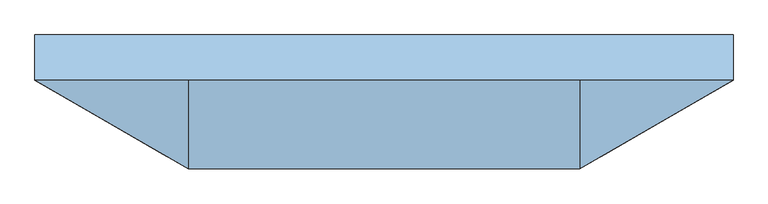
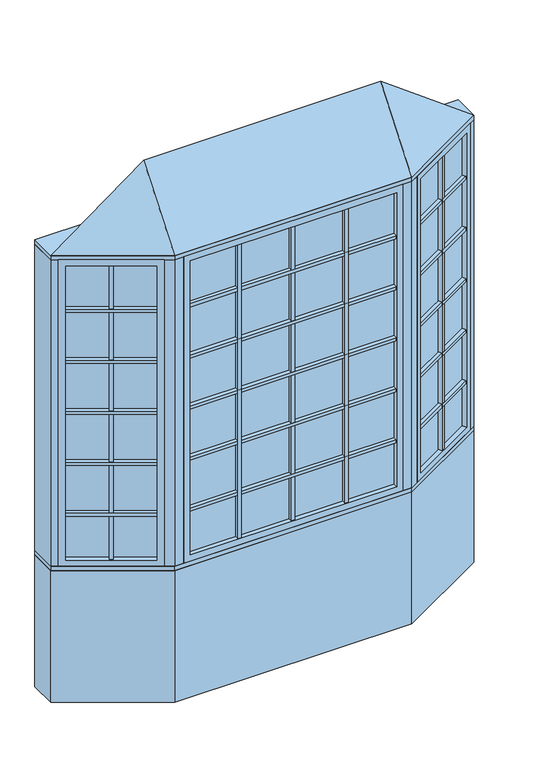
"""IFC4 building model written with IfcOpenShell, lengths in millimetres: window geometry, Pollard_Windows_Tudor Casement Bows and Bays : AML-BAY 30 AFR0618-12-500_GC."""

from ifc_helpers import new_model, si_unit, frame, origin, origin_with_axes, place, context, project, spatial, polyline, outline, extrude, faceted_brep, source, transform, mapped, element, save


def window_cc05f0d5(model_context):
    return source(origin(), model_context, "Body", "SolidModel", [
        extrude(outline(polyline([(732.2305346, -327.3537343), (721.2305346, -308.3011754), (1102.1135794, -88.3982469), (1113.1135794, -107.4508058), (732.2305346, -327.3537343)])), frame((0.0, 0.0, 1690.998), z_axis=(0.0, 0.0, 1.0), x_axis=(1.0, 0.0, 0.0)), (0.0, 0.0, 1.0), 18.0),
        extrude(outline(polyline([(718.6905346, -303.9017664), (707.6905346, -284.8492075), (1088.5735794, -64.946279), (1099.5735794, -83.9988379), (718.6905346, -303.9017664)])), frame((0.0, 0.0, 1690.998), z_axis=(0.0, 0.0, 1.0), x_axis=(1.0, 0.0, 0.0)), (0.0, 0.0, 1.0), 18.0),
        extrude(outline(polyline([(732.2305346, -327.3537343), (721.2305346, -308.3011754), (1102.1135794, -88.3982469), (1113.1135794, -107.4508058), (732.2305346, -327.3537343)])), frame((0.0, 0.0, 1090.998), z_axis=(0.0, 0.0, 1.0), x_axis=(1.0, 0.0, 0.0)), (0.0, 0.0, 1.0), 18.0),
        extrude(outline(polyline([(718.6905346, -303.9017664), (707.6905346, -284.8492075), (1088.5735794, -64.946279), (1099.5735794, -83.9988379), (718.6905346, -303.9017664)])), frame((0.0, 0.0, 1090.998), z_axis=(0.0, 0.0, 1.0), x_axis=(1.0, 0.0, 0.0)), (0.0, 0.0, 1.0), 18.0),
        extrude(outline(polyline([(732.2305346, -327.3537343), (721.2305346, -308.3011754), (1102.1135794, -88.3982469), (1113.1135794, -107.4508058), (732.2305346, -327.3537343)])), frame((0.0, 0.0, 1390.998), z_axis=(0.0, 0.0, 1.0), x_axis=(1.0, 0.0, 0.0)), (0.0, 0.0, 1.0), 18.0),
        extrude(outline(polyline([(718.6905346, -303.9017664), (707.6905346, -284.8492075), (1088.5735794, -64.946279), (1099.5735794, -83.9988379), (718.6905346, -303.9017664)])), frame((0.0, 0.0, 1390.998), z_axis=(0.0, 0.0, 1.0), x_axis=(1.0, 0.0, 0.0)), (0.0, 0.0, 1.0), 18.0),
        extrude(outline(polyline([(732.2305346, -327.3537343), (721.2305346, -308.3011754), (1102.1135794, -88.3982469), (1113.1135794, -107.4508058), (732.2305346, -327.3537343)])), frame((0.0, 0.0, 1990.998), z_axis=(0.0, 0.0, 1.0), x_axis=(1.0, 0.0, 0.0)), (0.0, 0.0, 1.0), 18.0),
        extrude(outline(polyline([(718.6905346, -303.9017664), (707.6905346, -284.8492075), (1088.5735794, -64.946279), (1099.5735794, -83.9988379), (718.6905346, -303.9017664)])), frame((0.0, 0.0, 1990.998), z_axis=(0.0, 0.0, 1.0), x_axis=(1.0, 0.0, 0.0)), (0.0, 0.0, 1.0), 18.0),
        extrude(outline(polyline([(732.2305346, -327.3537343), (721.2305346, -308.3011754), (1102.1135794, -88.3982469), (1113.1135794, -107.4508058), (732.2305346, -327.3537343)])), frame((0.0, 0.0, 2290.998), z_axis=(0.0, 0.0, 1.0), x_axis=(1.0, 0.0, 0.0)), (0.0, 0.0, 1.0), 18.0),
        extrude(outline(polyline([(718.6905346, -303.9017664), (707.6905346, -284.8492075), (1088.5735794, -64.946279), (1099.5735794, -83.9988379), (718.6905346, -303.9017664)])), frame((0.0, 0.0, 2290.998), z_axis=(0.0, 0.0, 1.0), x_axis=(1.0, 0.0, 0.0)), (0.0, 0.0, 1.0), 18.0),
        extrude(outline(polyline([(919.4662856, -193.8497112), (930.4662856, -212.9022701), (914.8778284, -221.9022701), (903.8778284, -202.8497112), (919.4662856, -193.8497112)])), frame((0.0, 0.0, 835.8628), z_axis=(0.0, 0.0, 1.0), x_axis=(1.0, 0.0, 0.0)), (0.0, 0.0, 1.0), 1728.2704),
        extrude(outline(polyline([(916.9262856, -189.4503021), (901.3378284, -198.4503021), (890.3378284, -179.3977432), (905.9262856, -170.3977432), (916.9262856, -189.4503021)])), frame((0.0, 0.0, 835.8628), z_axis=(0.0, 0.0, 1.0), x_axis=(1.0, 0.0, 0.0)), (0.0, 0.0, 1.0), 1728.2704),
        extrude(outline(polyline([(1113.112102, -82.0482469), (710.2320119, -314.6511754), (707.6920119, -310.2517664), (1110.572102, -77.6488379), (1113.112102, -82.0482469)])), frame((0.0, 0.0, 823.1628), z_axis=(0.0, 0.0, 1.0), x_axis=(1.0, 0.0, 0.0)), (0.0, 0.0, 1.0), 1753.6704),
        faceted_brep([(1102.1135794, -88.3982469, 835.8628), (1114.8135794, -110.3952922, 835.8628), (1114.8135794, -110.3952922, 2564.1332), (1102.1135794, -88.3982469, 2564.1332), (1110.572102, -77.6488379, 823.1628), (1113.112102, -82.0482469, 823.1628), (1113.112102, -82.0482469, 2576.8332), (1110.572102, -77.6488379, 2576.8332), (1086.8735794, -62.0017926, 835.8628), (1099.5735794, -83.9988379, 835.8628), (1099.5735794, -83.9988379, 2564.1332), (1086.8735794, -62.0017926, 2564.1332), (1145.8734073, -92.4628922, 799.998), (1117.9334073, -44.0693926, 799.998), (1117.9334073, -44.0693926, 2599.998), (1145.8734073, -92.4628922, 2599.998), (733.9305346, -330.2982207, 2564.1332), (721.2305346, -308.3011754, 2564.1332), (710.2320119, -314.6511754, 2576.8332), (707.6920119, -310.2517664, 2576.8332), (718.6905346, -303.9017664, 2564.1332), (705.9905346, -281.9047211, 2564.1332), (674.9307067, -299.8371211, 2599.998), (702.8707067, -348.2306207, 2599.998), (733.9305346, -330.2982207, 835.8628), (721.2305346, -308.3011754, 835.8628), (710.2320119, -314.6511754, 823.1628), (707.6920119, -310.2517664, 823.1628), (718.6905346, -303.9017664, 835.8628), (705.9905346, -281.9047211, 835.8628), (674.9307067, -299.8371211, 799.998), (702.8707067, -348.2306207, 799.998)], [[[0, 1, 2, 3]], [[4, 5, 6, 7]], [[8, 9, 10, 11]], [[12, 13, 14, 15]], [[3, 2, 16, 17]], [[7, 6, 18, 19]], [[11, 10, 20, 21]], [[15, 14, 22, 23]], [[17, 16, 24, 25]], [[19, 18, 26, 27]], [[21, 20, 28, 29]], [[23, 22, 30, 31]], [[25, 24, 1, 0]], [[5, 26, 18, 6], [3, 17, 25, 0]], [[27, 26, 5, 4]], [[7, 19, 27, 4], [9, 28, 20, 10]], [[29, 28, 9, 8]], [[13, 30, 22, 14], [11, 21, 29, 8]], [[31, 30, 13, 12]], [[15, 23, 31, 12], [1, 24, 16, 2]]]),
        extrude(outline(polyline([(306.7024182, -347.8306207), (306.7024182, -369.8306207), (288.7024182, -369.8306207), (288.7024182, -347.8306207), (306.7024182, -347.8306207)])), frame((0.0, 0.0, 835.8628), z_axis=(0.0, 0.0, 1.0), x_axis=(1.0, 0.0, 0.0)), (0.0, 0.0, 1.0), 1728.2704),
        extrude(outline(polyline([(306.7024182, -342.7506207), (288.7024182, -342.7506207), (288.7024182, -320.7506207), (306.7024182, -320.7506207), (306.7024182, -342.7506207)])), frame((0.0, 0.0, 835.8628), z_axis=(0.0, 0.0, 1.0), x_axis=(1.0, 0.0, 0.0)), (0.0, 0.0, 1.0), 1728.2704),
        extrude(outline(polyline([(-288.7024182, -347.8306207), (-288.7024182, -369.8306207), (-306.7024182, -369.8306207), (-306.7024182, -347.8306207), (-288.7024182, -347.8306207)])), frame((0.0, 0.0, 835.8628), z_axis=(0.0, 0.0, 1.0), x_axis=(1.0, 0.0, 0.0)), (0.0, 0.0, 1.0), 1728.2704),
        extrude(outline(polyline([(-288.7024182, -342.7506207), (-306.7024182, -342.7506207), (-306.7024182, -320.7506207), (-288.7024182, -320.7506207), (-288.7024182, -342.7506207)])), frame((0.0, 0.0, 835.8628), z_axis=(0.0, 0.0, 1.0), x_axis=(1.0, 0.0, 0.0)), (0.0, 0.0, 1.0), 1728.2704),
        extrude(outline(polyline([(-573.7046365, -369.8306207), (-573.7046365, -347.8306207), (573.7046365, -347.8306207), (573.7046365, -369.8306207), (-573.7046365, -369.8306207)])), frame((0.0, 0.0, 1090.998), z_axis=(0.0, 0.0, 1.0), x_axis=(1.0, 0.0, 0.0)), (0.0, 0.0, 1.0), 18.0),
        extrude(outline(polyline([(-573.7046365, -342.7506207), (-573.7046365, -320.7506207), (573.7046365, -320.7506207), (573.7046365, -342.7506207), (-573.7046365, -342.7506207)])), frame((0.0, 0.0, 1090.998), z_axis=(0.0, 0.0, 1.0), x_axis=(1.0, 0.0, 0.0)), (0.0, 0.0, 1.0), 18.0),
        extrude(outline(polyline([(-573.7046365, -369.8306207), (-573.7046365, -347.8306207), (573.7046365, -347.8306207), (573.7046365, -369.8306207), (-573.7046365, -369.8306207)])), frame((0.0, 0.0, 1390.998), z_axis=(0.0, 0.0, 1.0), x_axis=(1.0, 0.0, 0.0)), (0.0, 0.0, 1.0), 18.0),
        extrude(outline(polyline([(-573.7046365, -342.7506207), (-573.7046365, -320.7506207), (573.7046365, -320.7506207), (573.7046365, -342.7506207), (-573.7046365, -342.7506207)])), frame((0.0, 0.0, 1390.998), z_axis=(0.0, 0.0, 1.0), x_axis=(1.0, 0.0, 0.0)), (0.0, 0.0, 1.0), 18.0),
        extrude(outline(polyline([(-573.7046365, -369.8306207), (-573.7046365, -347.8306207), (573.7046365, -347.8306207), (573.7046365, -369.8306207), (-573.7046365, -369.8306207)])), frame((0.0, 0.0, 1690.998), z_axis=(0.0, 0.0, 1.0), x_axis=(1.0, 0.0, 0.0)), (0.0, 0.0, 1.0), 18.0),
        extrude(outline(polyline([(-573.7046365, -342.7506207), (-573.7046365, -320.7506207), (573.7046365, -320.7506207), (573.7046365, -342.7506207), (-573.7046365, -342.7506207)])), frame((0.0, 0.0, 1690.998), z_axis=(0.0, 0.0, 1.0), x_axis=(1.0, 0.0, 0.0)), (0.0, 0.0, 1.0), 18.0),
        extrude(outline(polyline([(-573.7046365, -369.8306207), (-573.7046365, -347.8306207), (573.7046365, -347.8306207), (573.7046365, -369.8306207), (-573.7046365, -369.8306207)])), frame((0.0, 0.0, 1990.998), z_axis=(0.0, 0.0, 1.0), x_axis=(1.0, 0.0, 0.0)), (0.0, 0.0, 1.0), 18.0),
        extrude(outline(polyline([(-573.7046365, -342.7506207), (-573.7046365, -320.7506207), (573.7046365, -320.7506207), (573.7046365, -342.7506207), (-573.7046365, -342.7506207)])), frame((0.0, 0.0, 1990.998), z_axis=(0.0, 0.0, 1.0), x_axis=(1.0, 0.0, 0.0)), (0.0, 0.0, 1.0), 18.0),
        extrude(outline(polyline([(-1113.1135794, -107.4508058), (-1102.1135794, -88.3982469), (-721.2305346, -308.3011754), (-732.2305346, -327.3537343), (-1113.1135794, -107.4508058)])), frame((0.0, 0.0, 1090.998), z_axis=(0.0, 0.0, 1.0), x_axis=(1.0, 0.0, 0.0)), (0.0, 0.0, 1.0), 18.0),
        extrude(outline(polyline([(-1099.5735794, -83.9988379), (-1088.5735794, -64.946279), (-707.6905346, -284.8492075), (-718.6905346, -303.9017664), (-1099.5735794, -83.9988379)])), frame((0.0, 0.0, 1090.998), z_axis=(0.0, 0.0, 1.0), x_axis=(1.0, 0.0, 0.0)), (0.0, 0.0, 1.0), 18.0),
        extrude(outline(polyline([(-1113.1135794, -107.4508058), (-1102.1135794, -88.3982469), (-721.2305346, -308.3011754), (-732.2305346, -327.3537343), (-1113.1135794, -107.4508058)])), frame((0.0, 0.0, 1390.998), z_axis=(0.0, 0.0, 1.0), x_axis=(1.0, 0.0, 0.0)), (0.0, 0.0, 1.0), 18.0),
        extrude(outline(polyline([(-1099.5735794, -83.9988379), (-1088.5735794, -64.946279), (-707.6905346, -284.8492075), (-718.6905346, -303.9017664), (-1099.5735794, -83.9988379)])), frame((0.0, 0.0, 1390.998), z_axis=(0.0, 0.0, 1.0), x_axis=(1.0, 0.0, 0.0)), (0.0, 0.0, 1.0), 18.0),
        extrude(outline(polyline([(-1113.1135794, -107.4508058), (-1102.1135794, -88.3982469), (-721.2305346, -308.3011754), (-732.2305346, -327.3537343), (-1113.1135794, -107.4508058)])), frame((0.0, 0.0, 1690.998), z_axis=(0.0, 0.0, 1.0), x_axis=(1.0, 0.0, 0.0)), (0.0, 0.0, 1.0), 18.0),
        extrude(outline(polyline([(-1099.5735794, -83.9988379), (-1088.5735794, -64.946279), (-707.6905346, -284.8492075), (-718.6905346, -303.9017664), (-1099.5735794, -83.9988379)])), frame((0.0, 0.0, 1690.998), z_axis=(0.0, 0.0, 1.0), x_axis=(1.0, 0.0, 0.0)), (0.0, 0.0, 1.0), 18.0),
        extrude(outline(polyline([(-1113.1135794, -107.4508058), (-1102.1135794, -88.3982469), (-721.2305346, -308.3011754), (-732.2305346, -327.3537343), (-1113.1135794, -107.4508058)])), frame((0.0, 0.0, 1990.998), z_axis=(0.0, 0.0, 1.0), x_axis=(1.0, 0.0, 0.0)), (0.0, 0.0, 1.0), 18.0),
        extrude(outline(polyline([(-1099.5735794, -83.9988379), (-1088.5735794, -64.946279), (-707.6905346, -284.8492075), (-718.6905346, -303.9017664), (-1099.5735794, -83.9988379)])), frame((0.0, 0.0, 1990.998), z_axis=(0.0, 0.0, 1.0), x_axis=(1.0, 0.0, 0.0)), (0.0, 0.0, 1.0), 18.0),
        extrude(outline(polyline([(-1113.1135794, -107.4508058), (-1102.1135794, -88.3982469), (-721.2305346, -308.3011754), (-732.2305346, -327.3537343), (-1113.1135794, -107.4508058)])), frame((0.0, 0.0, 2290.998), z_axis=(0.0, 0.0, 1.0), x_axis=(1.0, 0.0, 0.0)), (0.0, 0.0, 1.0), 18.0),
        extrude(outline(polyline([(-1099.5735794, -83.9988379), (-1088.5735794, -64.946279), (-707.6905346, -284.8492075), (-718.6905346, -303.9017664), (-1099.5735794, -83.9988379)])), frame((0.0, 0.0, 2290.998), z_axis=(0.0, 0.0, 1.0), x_axis=(1.0, 0.0, 0.0)), (0.0, 0.0, 1.0), 18.0),
        extrude(outline(polyline([(-573.7046365, -369.8306207), (-573.7046365, -347.8306207), (573.7046365, -347.8306207), (573.7046365, -369.8306207), (-573.7046365, -369.8306207)])), frame((0.0, 0.0, 2290.998), z_axis=(0.0, 0.0, 1.0), x_axis=(1.0, 0.0, 0.0)), (0.0, 0.0, 1.0), 18.0),
        extrude(outline(polyline([(-573.7046365, -342.7506207), (-573.7046365, -320.7506207), (573.7046365, -320.7506207), (573.7046365, -342.7506207), (-573.7046365, -342.7506207)])), frame((0.0, 0.0, 2290.998), z_axis=(0.0, 0.0, 1.0), x_axis=(1.0, 0.0, 0.0)), (0.0, 0.0, 1.0), 18.0),
        extrude(outline(polyline([(-903.8778284, -202.8497112), (-914.8778284, -221.9022701), (-930.4662856, -212.9022701), (-919.4662856, -193.8497112), (-903.8778284, -202.8497112)])), frame((0.0, 0.0, 835.8628), z_axis=(0.0, 0.0, 1.0), x_axis=(1.0, 0.0, 0.0)), (0.0, 0.0, 1.0), 1728.2704),
        extrude(outline(polyline([(-901.3378284, -198.4503021), (-916.9262856, -189.4503021), (-905.9262856, -170.3977432), (-890.3378284, -179.3977432), (-901.3378284, -198.4503021)])), frame((0.0, 0.0, 835.8628), z_axis=(0.0, 0.0, 1.0), x_axis=(1.0, 0.0, 0.0)), (0.0, 0.0, 1.0), 1728.2704),
        extrude(outline(polyline([(9.0, -347.8306207), (9.0, -369.8306207), (-9.0, -369.8306207), (-9.0, -347.8306207), (9.0, -347.8306207)])), frame((0.0, 0.0, 835.8628), z_axis=(0.0, 0.0, 1.0), x_axis=(1.0, 0.0, 0.0)), (0.0, 0.0, 1.0), 1728.2704),
        extrude(outline(polyline([(9.0, -342.7506207), (-9.0, -342.7506207), (-9.0, -320.7506207), (9.0, -320.7506207), (9.0, -342.7506207)])), frame((0.0, 0.0, 835.8628), z_axis=(0.0, 0.0, 1.0), x_axis=(1.0, 0.0, 0.0)), (0.0, 0.0, 1.0), 1728.2704),
        extrude(outline(polyline([(-710.2320119, -314.6511754), (-1113.112102, -82.0482469), (-1110.572102, -77.6488379), (-707.6920119, -310.2517664), (-710.2320119, -314.6511754)])), frame((0.0, 0.0, 823.1628), z_axis=(0.0, 0.0, 1.0), x_axis=(1.0, 0.0, 0.0)), (0.0, 0.0, 1.0), 1753.6704),
        faceted_brep([(-718.6905346, -303.9017664, 2564.1332), (-705.9905346, -281.9047211, 2564.1332), (-705.9905346, -281.9047211, 835.8628), (-718.6905346, -303.9017664, 835.8628), (-710.2320119, -314.6511754, 2576.8332), (-707.6920119, -310.2517664, 2576.8332), (-707.6920119, -310.2517664, 823.1628), (-710.2320119, -314.6511754, 823.1628), (-733.9305346, -330.2982207, 2564.1332), (-721.2305346, -308.3011754, 2564.1332), (-721.2305346, -308.3011754, 835.8628), (-733.9305346, -330.2982207, 835.8628), (-674.9307067, -299.8371211, 2599.998), (-702.8707067, -348.2306207, 2599.998), (-702.8707067, -348.2306207, 799.998), (-674.9307067, -299.8371211, 799.998), (-1086.8735794, -62.0017926, 835.8628), (-1099.5735794, -83.9988379, 835.8628), (-1110.572102, -77.6488379, 823.1628), (-1113.112102, -82.0482469, 823.1628), (-1102.1135794, -88.3982469, 835.8628), (-1114.8135794, -110.3952922, 835.8628), (-1145.8734073, -92.4628922, 799.998), (-1117.9334073, -44.0693926, 799.998), (-1086.8735794, -62.0017926, 2564.1332), (-1099.5735794, -83.9988379, 2564.1332), (-1110.572102, -77.6488379, 2576.8332), (-1113.112102, -82.0482469, 2576.8332), (-1102.1135794, -88.3982469, 2564.1332), (-1114.8135794, -110.3952922, 2564.1332), (-1145.8734073, -92.4628922, 2599.998), (-1117.9334073, -44.0693926, 2599.998)], [[[0, 1, 2, 3]], [[4, 5, 6, 7]], [[8, 9, 10, 11]], [[12, 13, 14, 15]], [[3, 2, 16, 17]], [[7, 6, 18, 19]], [[11, 10, 20, 21]], [[15, 14, 22, 23]], [[17, 16, 24, 25]], [[19, 18, 26, 27]], [[21, 20, 28, 29]], [[23, 22, 30, 31]], [[15, 23, 31, 12], [1, 24, 16, 2]], [[25, 24, 1, 0]], [[5, 26, 18, 6], [3, 17, 25, 0]], [[27, 26, 5, 4]], [[7, 19, 27, 4], [9, 28, 20, 10]], [[29, 28, 9, 8]], [[13, 30, 22, 14], [11, 21, 29, 8]], [[31, 30, 13, 12]]]),
        extrude(outline(polyline([(586.4046365, -347.8306207), (-586.4046365, -347.8306207), (-586.4046365, -342.7506207), (586.4046365, -342.7506207), (586.4046365, -347.8306207)])), frame((0.0, 0.0, 823.1628), z_axis=(0.0, 0.0, 1.0), x_axis=(1.0, 0.0, 0.0)), (0.0, 0.0, 1.0), 1753.6704),
        faceted_brep([(573.7046365, -347.8306207, 835.8628), (573.7046365, -373.2306207, 835.8628), (573.7046365, -373.2306207, 2564.1332), (573.7046365, -347.8306207, 2564.1332), (586.4046365, -342.7506207, 823.1628), (586.4046365, -347.8306207, 823.1628), (586.4046365, -347.8306207, 2576.8332), (586.4046365, -342.7506207, 2576.8332), (573.7046365, -317.3506207, 835.8628), (573.7046365, -342.7506207, 835.8628), (573.7046365, -342.7506207, 2564.1332), (573.7046365, -317.3506207, 2564.1332), (609.5694365, -373.2306207, 799.998), (609.5694365, -317.3506207, 799.998), (609.5694365, -317.3506207, 2599.998), (609.5694365, -373.2306207, 2599.998), (-573.7046365, -373.2306207, 2564.1332), (-573.7046365, -347.8306207, 2564.1332), (-586.4046365, -347.8306207, 2576.8332), (-586.4046365, -342.7506207, 2576.8332), (-573.7046365, -342.7506207, 2564.1332), (-573.7046365, -317.3506207, 2564.1332), (-609.5694365, -317.3506207, 2599.998), (-609.5694365, -373.2306207, 2599.998), (-573.7046365, -373.2306207, 835.8628), (-573.7046365, -347.8306207, 835.8628), (-586.4046365, -347.8306207, 823.1628), (-586.4046365, -342.7506207, 823.1628), (-573.7046365, -342.7506207, 835.8628), (-573.7046365, -317.3506207, 835.8628), (-609.5694365, -317.3506207, 799.998), (-609.5694365, -373.2306207, 799.998)], [[[0, 1, 2, 3]], [[4, 5, 6, 7]], [[8, 9, 10, 11]], [[12, 13, 14, 15]], [[3, 2, 16, 17]], [[7, 6, 18, 19]], [[11, 10, 20, 21]], [[15, 14, 22, 23]], [[17, 16, 24, 25]], [[19, 18, 26, 27]], [[21, 20, 28, 29]], [[23, 22, 30, 31]], [[15, 23, 31, 12], [1, 24, 16, 2]], [[25, 24, 1, 0]], [[5, 26, 18, 6], [3, 17, 25, 0]], [[27, 26, 5, 4]], [[7, 19, 27, 4], [9, 28, 20, 10]], [[29, 28, 9, 8]], [[13, 30, 22, 14], [11, 21, 29, 8]], [[31, 30, 13, 12]]]),
        faceted_brep([(1176.5, -74.7806207, 2625.398), (659.5694365, -373.2306207, 2625.398), (-659.5694365, -373.2306207, 2625.398), (-1176.5, -74.7806207, 2625.398), (-659.5694365, -74.7806207, 3006.398), (659.5694365, -74.7806207, 3006.398)], [[[0, 1, 2, 3]], [[3, 2, 4]], [[2, 1, 5, 4]], [[1, 0, 5]], [[0, 3, 4, 5]]]),
        extrude(outline(polyline([(-1176.5, 77.6193793), (1176.5, 77.6193793), (1176.5, -74.7806207), (659.5694365, -373.2306207), (-659.5694365, -373.2306207), (-1176.5, -74.7806207), (-1176.5, 77.6193793)])), frame((0.0, 0.0, 2599.998), z_axis=(0.0, 0.0, 1.0), x_axis=(1.0, 0.0, 0.0)), (0.0, 0.0, 1.0), 25.4),
        extrude(outline(polyline([(-1176.5, -74.7806207), (-1176.5, 77.6193793), (-1135.6645431, 77.6193793), (-1135.6645431, -74.7806207), (-1145.8734073, -92.4628922), (-1176.5, -74.7806207)])), frame((0.0, 0.0, 799.998), z_axis=(0.0, 0.0, 1.0), x_axis=(1.0, 0.0, 0.0)), (0.0, 0.0, 1.0), 1800.0),
        extrude(outline(polyline([(1176.5, 77.6193793), (1176.5, -74.7806207), (1145.8734073, -92.4628922), (1135.6645431, -74.7806207), (1135.6645431, 77.6193793), (1176.5, 77.6193793)])), frame((0.0, 0.0, 799.998), z_axis=(0.0, 0.0, 1.0), x_axis=(1.0, 0.0, 0.0)), (0.0, 0.0, 1.0), 1800.0),
        extrude(outline(polyline([(659.5694365, -373.2306207), (609.5694365, -373.2306207), (609.5694365, -323.2306207), (646.1719769, -323.2306207), (677.8707067, -304.9293505), (702.8707067, -348.2306207), (659.5694365, -373.2306207)])), frame((0.0, 0.0, 799.998), z_axis=(0.0, 0.0, 1.0), x_axis=(1.0, 0.0, 0.0)), (0.0, 0.0, 1.0), 1800.0),
        extrude(outline(polyline([(-659.5694365, -373.2306207), (-702.8707067, -348.2306207), (-677.8707067, -304.9293505), (-646.1719769, -323.2306207), (-609.5694365, -323.2306207), (-609.5694365, -373.2306207), (-659.5694365, -373.2306207)])), frame((0.0, 0.0, 799.998), z_axis=(0.0, 0.0, 1.0), x_axis=(1.0, 0.0, 0.0)), (0.0, 0.0, 1.0), 1800.0),
        extrude(outline(polyline([(-659.5694365, -373.2306207), (-1176.5, -74.7806207), (-1176.5, 77.6193793), (-1135.6645431, 77.6193793), (-618.7339796, -220.8306207), (618.7339796, -220.8306207), (1135.6645431, 77.6193793), (1176.5, 77.6193793), (1176.5, -74.7806207), (659.5694365, -373.2306207), (-659.5694365, -373.2306207)])), frame((0.0, 0.0, 774.598), z_axis=(0.0, 0.0, 1.0), x_axis=(1.0, 0.0, 0.0)), (0.0, 0.0, 1.0), 25.4),
        extrude(outline(polyline([(-1176.5, -74.7806207), (-1176.5, 77.6193793), (-1135.6645431, 77.6193793), (-618.7339796, -220.8306207), (618.7339796, -220.8306207), (1135.6645431, 77.6193793), (1176.5, 77.6193793), (1176.5, -74.7806207), (659.5694365, -373.2306207), (-659.5694365, -373.2306207), (-1176.5, -74.7806207)])), origin_with_axes(), (0.0, 0.0, 1.0), 774.598),
    ])


if __name__ == "__main__":
    model = new_model("IFC4")
    model_context = context("Model", 3, world=origin())
    ifc_project = project(units=[si_unit("LENGTHUNIT", "METRE", prefix="MILLI")], contexts=[model_context])
    site = spatial("IfcSite", under=ifc_project)
    building = spatial("IfcBuilding", under=site)
    placement = place(None, origin())
    window_shape = window_cc05f0d5(model_context)
    element("IfcWindow", 1, ObjectType="Pollard_Windows_Tudor Casement Bows and Bays : AML-BAY 30 AFR0618-12-500_GC", at=placement, inside=building, context=model_context, shape_type="MappedRepresentation", body=[
        mapped(window_shape, transform((0.0, 0.0, 0.0), x_axis=(1.0, 0.0, 0.0), y_axis=(0.0, 1.0, 0.0), z_axis=(0.0, 0.0, 1.0))),
    ])
    save(model, "model.ifc")
